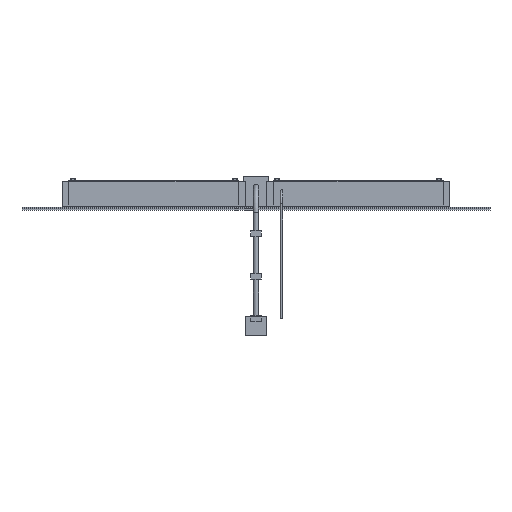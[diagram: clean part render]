
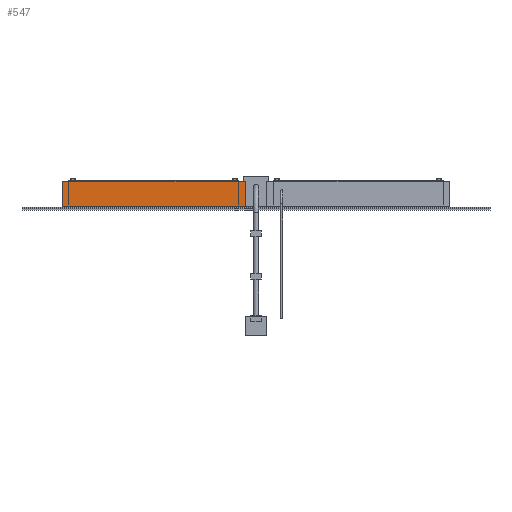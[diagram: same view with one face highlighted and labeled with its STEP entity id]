
A CAD part, front view. The second image highlights one B-rep face of the part: STEP entity #547.
In plain terms, the highlighted planar face has unit normal (0, -1, 0).
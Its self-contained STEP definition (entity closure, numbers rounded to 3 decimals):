
#471 = EDGE_CURVE('',#472,#474,#476,.T.);
#472 = VERTEX_POINT('',#473);
#473 = CARTESIAN_POINT('',(-455.,-76.,163.));
#474 = VERTEX_POINT('',#475);
#475 = CARTESIAN_POINT('',(-455.,-76.,223.));
#476 = LINE('',#477,#478);
#477 = CARTESIAN_POINT('',(-455.,-76.,163.));
#478 = VECTOR('',#479,1.);
#479 = DIRECTION('',(0.,0.,1.));
#511 = EDGE_CURVE('',#512,#514,#516,.T.);
#512 = VERTEX_POINT('',#513);
#513 = CARTESIAN_POINT('',(-25.,-76.,163.));
#514 = VERTEX_POINT('',#515);
#515 = CARTESIAN_POINT('',(-25.,-76.,223.));
#516 = LINE('',#517,#518);
#517 = CARTESIAN_POINT('',(-25.,-76.,163.));
#518 = VECTOR('',#519,1.);
#519 = DIRECTION('',(0.,0.,1.));
#547 = ADVANCED_FACE('',(#548),#564,.F.);
#548 = FACE_BOUND('',#549,.F.);
#549 = EDGE_LOOP('',(#550,#556,#557,#563));
#550 = ORIENTED_EDGE('',*,*,#551,.F.);
#551 = EDGE_CURVE('',#472,#512,#552,.T.);
#552 = LINE('',#553,#554);
#553 = CARTESIAN_POINT('',(-455.,-76.,163.));
#554 = VECTOR('',#555,1.);
#555 = DIRECTION('',(1.,0.,0.));
#556 = ORIENTED_EDGE('',*,*,#471,.T.);
#557 = ORIENTED_EDGE('',*,*,#558,.T.);
#558 = EDGE_CURVE('',#474,#514,#559,.T.);
#559 = LINE('',#560,#561);
#560 = CARTESIAN_POINT('',(-455.,-76.,223.));
#561 = VECTOR('',#562,1.);
#562 = DIRECTION('',(1.,0.,0.));
#563 = ORIENTED_EDGE('',*,*,#511,.F.);
#564 = PLANE('',#565);
#565 = AXIS2_PLACEMENT_3D('',#566,#567,#568);
#566 = CARTESIAN_POINT('',(-455.,-76.,163.));
#567 = DIRECTION('',(0.,1.,0.));
#568 = DIRECTION('',(0.,0.,1.));
